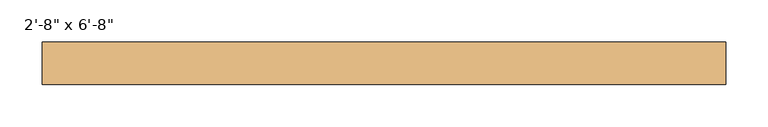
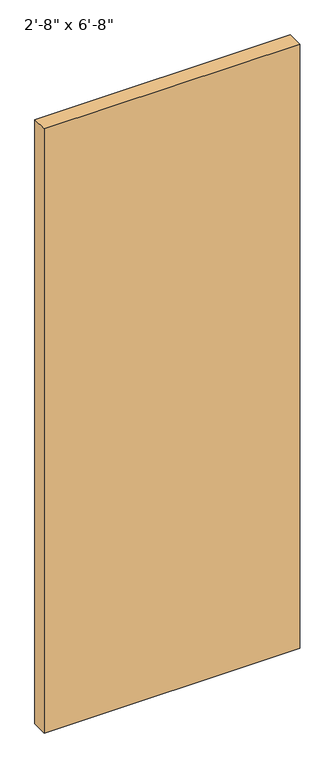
"""IFC4 building model written with IfcOpenShell, lengths in millimetres: door geometry."""

from ifc_helpers import new_model, si_unit, origin, origin_with_axes, place, context, project, spatial, polyline, outline, extrude, source, transform, mapped, element, save


def door_ba797397(model_context):
    return source(origin(), model_context, "Body", "SweptSolid", [
        extrude(outline(polyline([(406.4, -6.15), (406.4, -57.15), (-406.4, -57.15), (-406.4, -6.15), (406.4, -6.15)])), origin_with_axes(), (0.0, 0.0, 1.0), 2032.0),
    ])


if __name__ == "__main__":
    model = new_model("IFC4")
    model_context = context("Model", 3, world=origin())
    ifc_project = project(units=[si_unit("LENGTHUNIT", "METRE", prefix="MILLI")], contexts=[model_context])
    site = spatial("IfcSite", under=ifc_project)
    building = spatial("IfcBuilding", under=site)
    placement = place(None, origin())
    door_shape = door_ba797397(model_context)
    element("IfcDoor", 1, ObjectType="Planitar - Single Door_Flush Panel : 2'-8\" x 6'-8\"", at=placement, inside=building, context=model_context, shape_type="MappedRepresentation", body=[
        mapped(door_shape, transform((0.0, 0.0, 0.0), x_axis=(1.0, 0.0, 0.0), y_axis=(0.0, 1.0, 0.0), z_axis=(0.0, 0.0, 1.0))),
    ])
    save(model, "model.ifc")
